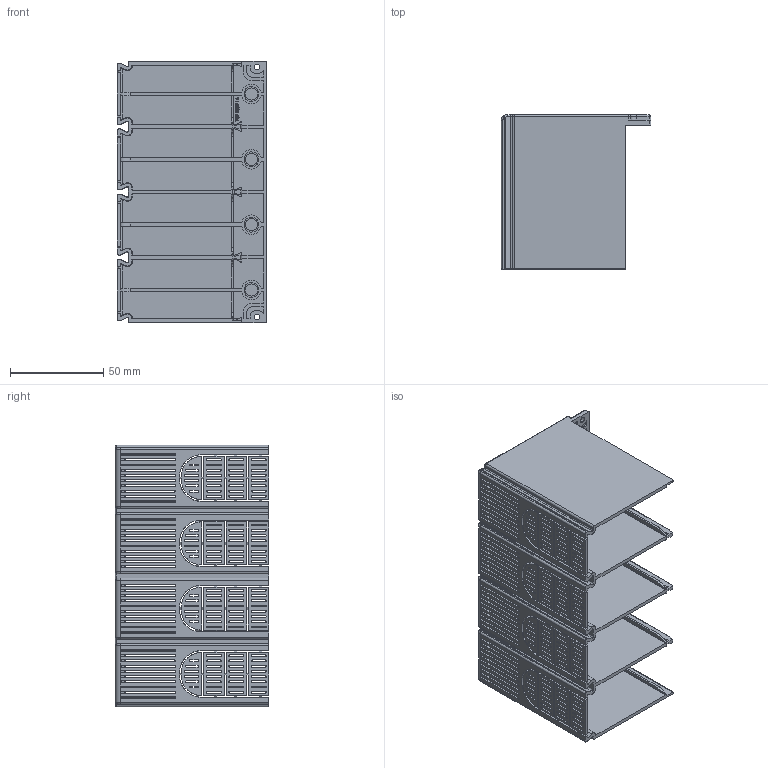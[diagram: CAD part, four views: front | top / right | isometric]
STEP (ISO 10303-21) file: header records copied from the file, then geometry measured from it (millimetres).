
FILE_DESCRIPTION((''),'2;1');
FILE_NAME('U2_4P_LONG_TERMINAL_COVER','2018-06-04T',('HHI'),(''),'PRO/ENGINEER BY PARAMETRIC TECHNOLOGY CORPORATION, 2012453','PRO/ENGINEER BY PARAMETRIC TECHNOLOGY CORPORATION, 2012453','');
FILE_SCHEMA(('CONFIG_CONTROL_DESIGN'));
Length unit declared in the file: millimetre
Products named in the file (1): U2_4P_LONG_TERMINAL_COVER
Bounding box: 80.3 x 82.5 x 140 mm (x, y, z)
Volume: 100595 mm3; surface area: 115192.1 mm2
Topology: 1 solids, 1 shells, 1692 faces, 5031 edges, 3250 vertices
Faces by surface type: plane 873, cylinder 597, extrusion 76, torus 70, cone 32, bspline 30, sphere 14
Entity records: 59297 total; most frequent: CARTESIAN_POINT 12756, ORIENTED_EDGE 10030, DIRECTION 9373, EDGE_CURVE 5015, VECTOR 3419, LINE 3343, VERTEX_POINT 3242, AXIS2_PLACEMENT_3D 2977
